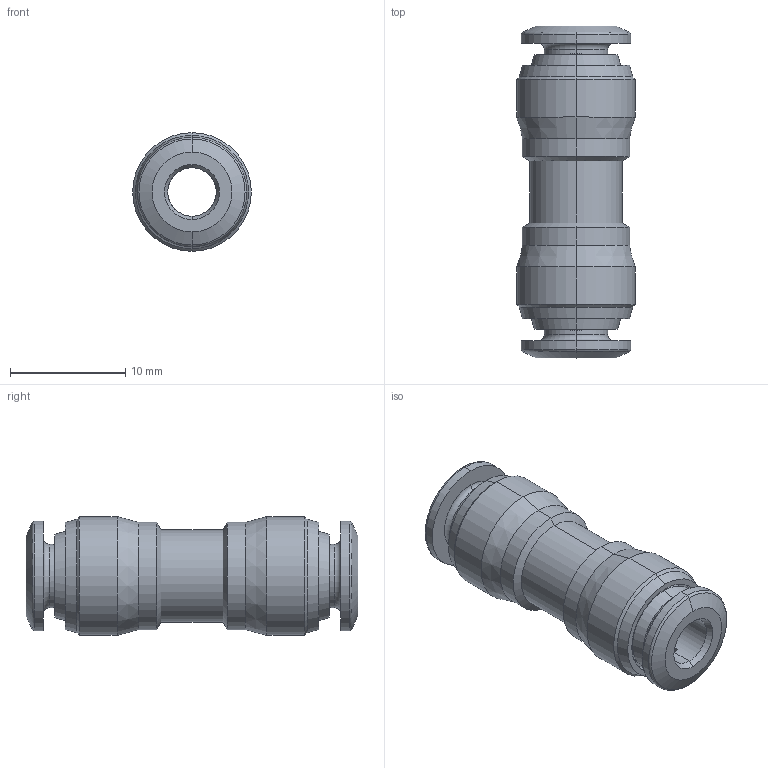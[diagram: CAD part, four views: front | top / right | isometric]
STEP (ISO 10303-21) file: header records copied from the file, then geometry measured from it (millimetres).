
FILE_DESCRIPTION (( 'STEP AP214' ), '1' );
FILE_NAME ('40040V0001A.STEP', '2016-05-16T13:13:33', ( '' ), ( '' ), 'SwSTEP 2.0', 'SolidWorks 2016', '' );
FILE_SCHEMA (( 'AUTOMOTIVE_DESIGN' ));
Length unit declared in the file: millimetre
Products named in the file (1): 40040V0001A
Bounding box: 10.3 x 28.8 x 10.3 mm (x, y, z)
Surface area: 1467.3 mm2 (no closed solid volume)
Topology: 0 solids, 5 shells, 88 faces, 242 edges, 156 vertices
Faces by surface type: cone 32, cylinder 30, plane 18, torus 8
Entity records: 3789 total; most frequent: DIRECTION 536, CARTESIAN_POINT 511, ORIENTED_EDGE 408, EDGE_CURVE 242, AXIS2_PLACEMENT_3D 213, VERTEX_POINT 156, CIRCLE 124, LINE 110
